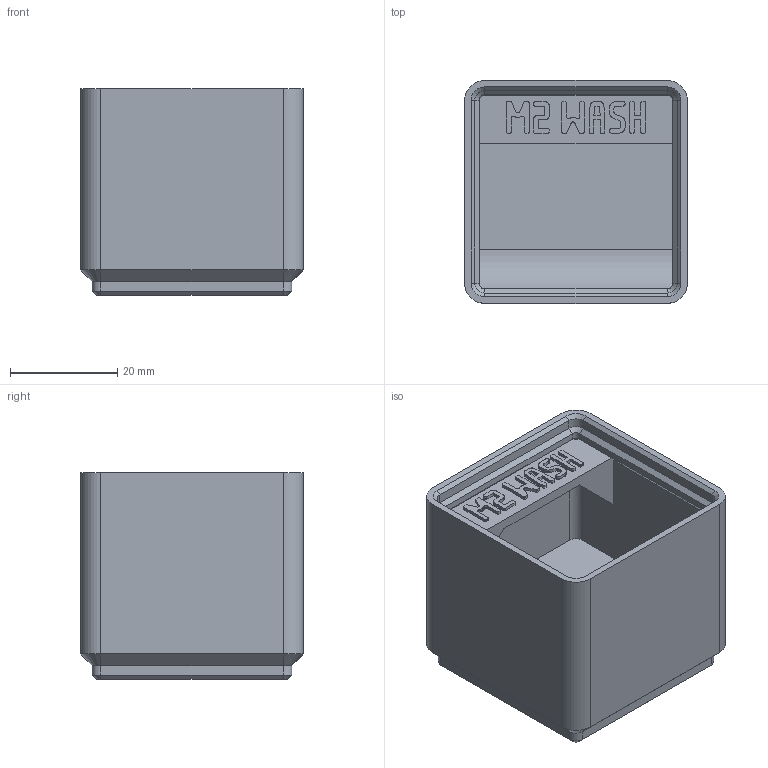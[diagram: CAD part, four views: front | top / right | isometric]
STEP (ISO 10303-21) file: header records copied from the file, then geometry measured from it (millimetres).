
FILE_DESCRIPTION(('Open CASCADE Model'),'2;1');
FILE_NAME('Open CASCADE Shape Model','2026-11-03T10:35:55',('Author'),( 'Open CASCADE'),'Open CASCADE STEP processor 8.0','build123d', 'Unknown');
FILE_SCHEMA(('AUTOMOTIVE_DESIGN { 1 0 10303 214 1 1 1 1 }'));
Products named in the file (1): COMPOUND
Bounding box: 41.5 x 41.5 x 38.55 mm (x, y, z)
Volume: 27582.2 mm3; surface area: 13888.7 mm2
Topology: 1 solids, 1 shells, 772 faces, 2226 edges, 1464 vertices
Faces by surface type: plane 731, cylinder 21, cone 20
Entity records: 52431 total; most frequent: CARTESIAN_POINT 10809, DIRECTION 6691, LINE 5030, VECTOR 5030, ORIENTED_EDGE 4452, PCURVE 4452, DEFINITIONAL_REPRESENTATION 4452, EDGE_CURVE 2226
